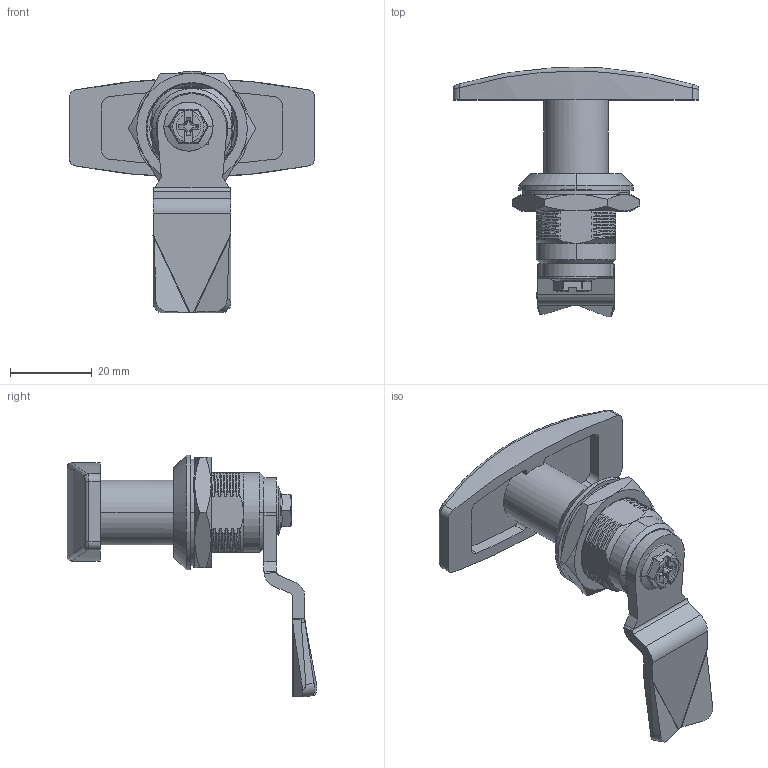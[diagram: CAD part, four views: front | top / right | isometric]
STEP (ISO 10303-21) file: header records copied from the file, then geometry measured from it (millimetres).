
FILE_DESCRIPTION (( 'STEP AP214' ), '1' );
FILE_NAME ('CUYUE.MS705-3U.STEP', '2026-06-23T09:20:46', ( '' ), ( '' ), 'SwSTEP 2.0', 'SolidWorks 2020', '' );
FILE_SCHEMA (( 'AUTOMOTIVE_DESIGN' ));
Length unit declared in the file: millimetre
Products named in the file (8): CUYUE.MS705-3U; 8SJ-MS705-0510_1; M22X1_5_1; 8SJ-MS705-3U-0020_1; s1b45071_1; 8SJ-MS705-0010_1; MS705-3U_1_2; SW6X8_1shuai_1
Assembly tree (7 placements, depth 3):
  CUYUE.MS705-3U
    MS705-3U_1_2
      8SJ-MS705-0010_1
      8SJ-MS705-3U-0020_1
      8SJ-MS705-0510_1
      SW6X8_1shuai_1
      M22X1_5_1
    s1b45071_1
Bounding box: 60 x 60.87 x 59 mm (x, y, z)
Volume: 9764.4 mm3; surface area: 15585 mm2
Topology: 4 solids, 10 shells, 724 faces, 1931 edges, 1192 vertices
Faces by surface type: bspline 293, cylinder 229, plane 159, cone 43
Entity records: 40558 total; most frequent: CARTESIAN_POINT 17403, ORIENTED_EDGE 3778, DIRECTION 2162, EDGE_CURVE 1895, VERTEX_POINT 1192, B_SPLINE_CURVE_WITH_KNOTS 917, AXIS2_PLACEMENT_3D 835, UNCERTAINTY_MEASURE_WITH_UNIT 745
